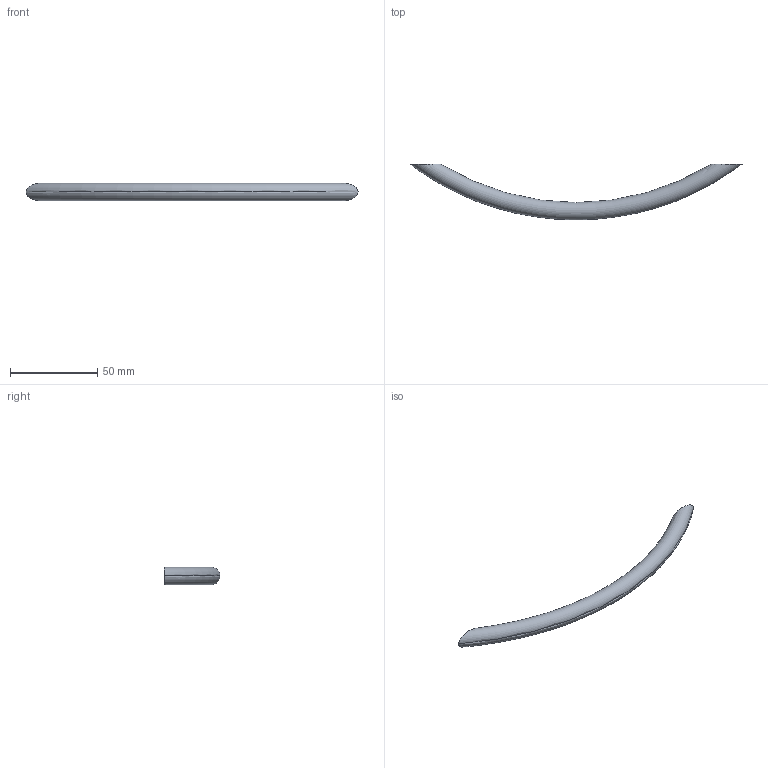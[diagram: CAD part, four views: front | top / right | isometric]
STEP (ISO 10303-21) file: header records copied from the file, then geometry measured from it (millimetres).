
FILE_DESCRIPTION( ( '' ), '1' );
FILE_NAME( 'D:/1.AUTOCAD EXPORT/Group 10/sheet_10_1/ 9070451.stp', '2013-10-22T03:15:22', ( '' ), ( '' ), ' ', ' ', ' ' );
FILE_SCHEMA( ( 'automotive_design' ) );
Length unit declared in the file: millimetre
Products named in the file (1): 1
Bounding box: 190 x 31.93 x 9.98 mm (x, y, z)
Volume: 14291.1 mm3; surface area: 6200.4 mm2
Topology: 1 solids, 1 shells, 10 faces, 18 edges, 12 vertices
Faces by surface type: cylinder 4, plane 4, torus 2
Entity records: 710 total; most frequent: CARTESIAN_POINT 253, DIRECTION 46, STYLED_ITEM 41, PRESENTATION_STYLE_ASSIGNMENT 41, COLOUR_RGB 41, ORIENTED_EDGE 36, AXIS2_PLACEMENT_3D 21, EDGE_CURVE 18
